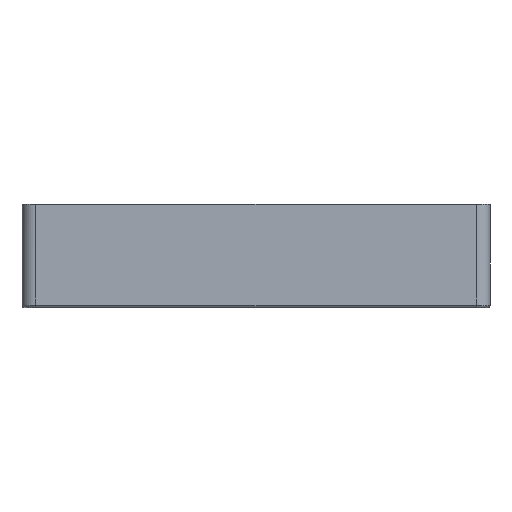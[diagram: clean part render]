
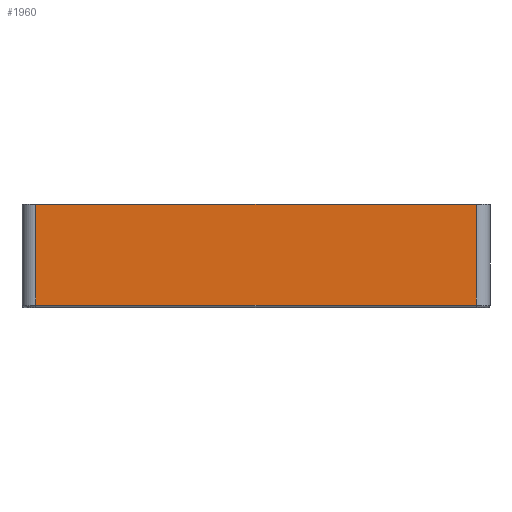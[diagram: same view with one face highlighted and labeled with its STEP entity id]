
A CAD part, left-side view. The second image highlights one B-rep face of the part: STEP entity #1960.
In plain terms, the highlighted planar face has unit normal (-1, 0, 0).
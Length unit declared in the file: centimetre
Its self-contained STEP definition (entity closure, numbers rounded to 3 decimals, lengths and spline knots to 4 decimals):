
#419=FACE_OUTER_BOUND($,#617,.T.);
#617=EDGE_LOOP($,(#1763,#1764,#1765,#1766));
#708=LINE($,#3357,#826);
#725=LINE($,#3474,#843);
#740=LINE($,#3514,#858);
#741=LINE($,#3515,#859);
#826=VECTOR($,#2620,9.56);
#843=VECTOR($,#2761,2.19);
#858=VECTOR($,#2814,9.56);
#859=VECTOR($,#2815,2.19);
#998=VERTEX_POINT($,#3354);
#999=VERTEX_POINT($,#3356);
#1033=VERTEX_POINT($,#3458);
#1037=VERTEX_POINT($,#3472);
#1222=EDGE_CURVE($,#998,#999,#708,.F.);
#1270=EDGE_CURVE($,#1037,#998,#725,.T.);
#1289=EDGE_CURVE($,#1033,#1037,#740,.T.);
#1290=EDGE_CURVE($,#999,#1033,#741,.T.);
#1763=ORIENTED_EDGE($,*,*,#1222,.F.);
#1764=ORIENTED_EDGE($,*,*,#1270,.F.);
#1765=ORIENTED_EDGE($,*,*,#1289,.F.);
#1766=ORIENTED_EDGE($,*,*,#1290,.F.);
#1838=PLANE($,#2208);
#1960=ADVANCED_FACE($,(#419),#1838,.F.);
#2208=AXIS2_PLACEMENT_3D($,#3513,#2812,#2813);
#2620=DIRECTION($,(0.,1.,0.));
#2761=DIRECTION($,(0.,0.,1.));
#2812=DIRECTION('center_axis',(1.,0.,0.));
#2813=DIRECTION('ref_axis',(0.,0.,-1.));
#2814=DIRECTION($,(0.,1.,0.));
#2815=DIRECTION($,(0.,0.,-1.));
#3354=CARTESIAN_POINT('',(40.644,-85.193,1.3305));
#3356=CARTESIAN_POINT('',(40.644,-94.753,1.3305));
#3357=CARTESIAN_POINT($,(40.644,-89.973,1.3305));
#3458=CARTESIAN_POINT('',(40.644,-94.753,-0.8595));
#3472=CARTESIAN_POINT('',(40.644,-85.193,-0.8595));
#3474=CARTESIAN_POINT($,(40.644,-85.193,-0.0295));
#3513=CARTESIAN_POINT('Origin',(40.644,-89.973,-0.0295));
#3514=CARTESIAN_POINT($,(40.644,-89.973,-0.8595));
#3515=CARTESIAN_POINT($,(40.644,-94.753,-0.0295));
